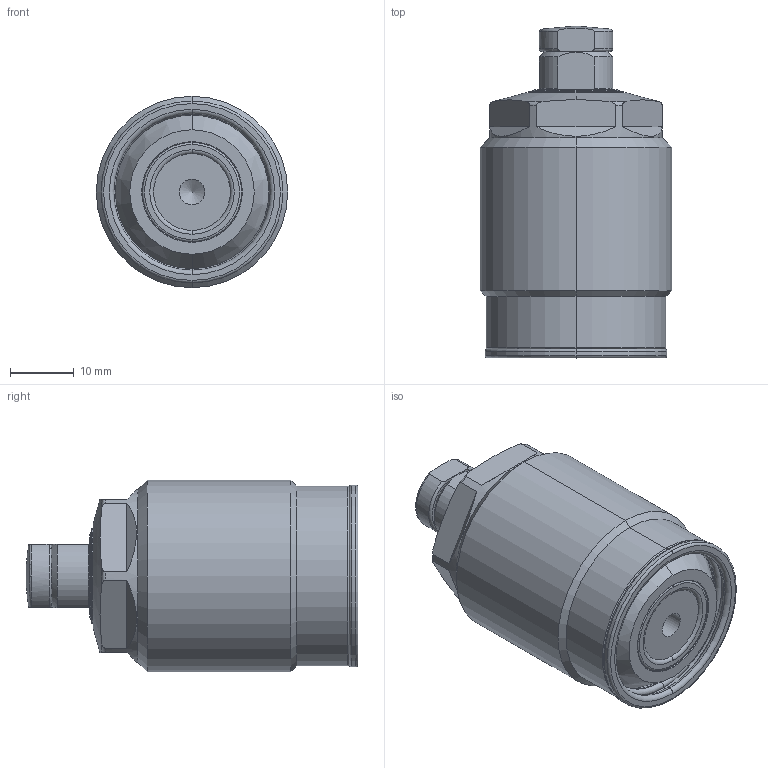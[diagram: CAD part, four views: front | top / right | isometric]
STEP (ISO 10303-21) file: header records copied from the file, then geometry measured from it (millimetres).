
FILE_DESCRIPTION(/* description */ (''),/* implementation_level */ '2;1');
FILE_NAME(/* name */ 'TSC30-S.stp',/* time_stamp */ '2025-01-10T14:53:57+08:00',/* author */ (''),/* organization */ (''),/* preprocessor_version */ 'ST-DEVELOPER v16.7',/* originating_system */ 'SIEMENS PLM Software NX 12.0',/* authorisation */ '');
FILE_SCHEMA (('AUTOMOTIVE_DESIGN { 1 0 10303 214 3 1 1 1 }'));
Length unit declared in the file: millimetre
Products named in the file (7): XLD-M8_Oring1817; XLD-M8_contactbolt5652; TSS30-S-01; TSC30-S-04; TSC30-S-02; TSC30-S-01; TSC30-S_stp
Assembly tree (6 placements, depth 3):
  TSC30-S_stp
    TSC30-S-01
      XLD-M8_contactbolt5652
      XLD-M8_Oring1817
    TSC30-S-02
    TSC30-S-04
    TSS30-S-01
Bounding box: 30 x 52 x 30 mm (x, y, z)
Volume: 27078.2 mm3; surface area: 8030.1 mm2
Topology: 5 solids, 6 shells, 165 faces, 364 edges, 219 vertices
Faces by surface type: torus 56, cylinder 42, plane 38, cone 27, sphere 2
Full cylindrical faces by diameter (mm): 4 x1
Entity records: 4995 total; most frequent: CARTESIAN_POINT 1132, DIRECTION 879, ORIENTED_EDGE 716, AXIS2_PLACEMENT_3D 393, EDGE_CURVE 358, CIRCLE 221, VERTEX_POINT 218, EDGE_LOOP 181
